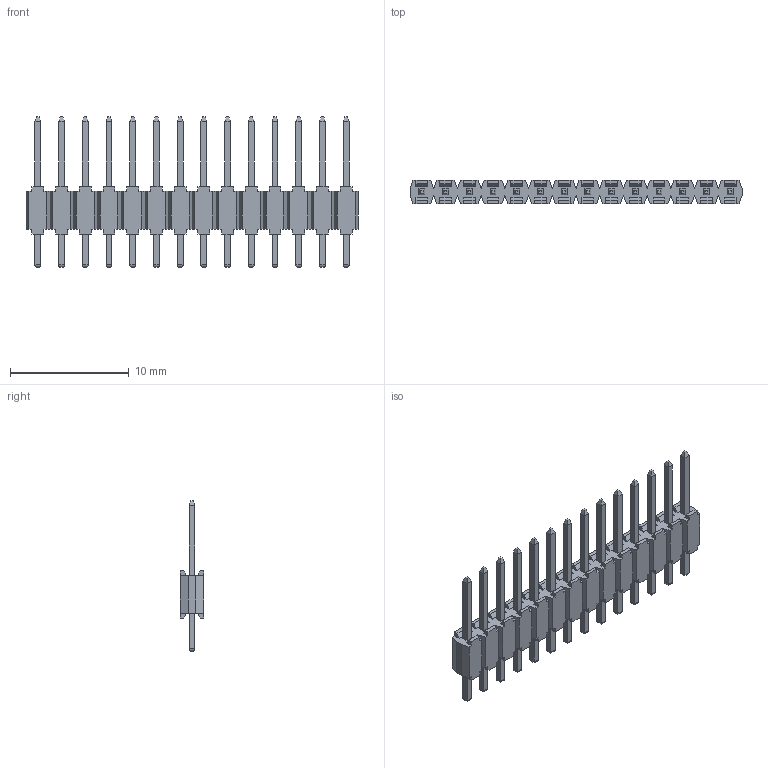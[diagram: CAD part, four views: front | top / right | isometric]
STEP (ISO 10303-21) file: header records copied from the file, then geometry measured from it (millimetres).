
FILE_DESCRIPTION(/* description */ (''),/* implementation_level */ '2;1');
FILE_NAME(/* name */ '951414-9060806-AR',/* time_stamp */ '2007-03-14T14:59:06+01:00',/* author */ (''),/* organization */ (''),/* preprocessor_version */ 'ST-DEVELOPER v9',/* originating_system */ 'UGS - NX 4.0',/* authorisation */ '');
FILE_SCHEMA (('AUTOMOTIVE_DESIGN { 1 0 10303 214 1 1 1 1 }'));
Length unit declared in the file: millimetre
Products named in the file (1): 951414-9060806-AR
Bounding box: 28 x 2 x 12.7 mm (x, y, z)
Volume: 205.4 mm3; surface area: 685 mm2
Topology: 1 solids, 1 shells, 564 faces, 1490 edges, 956 vertices
Faces by surface type: plane 508, cylinder 56
Entity records: 16998 total; most frequent: CARTESIAN_POINT 3011, ORIENTED_EDGE 2980, DIRECTION 2676, EDGE_CURVE 1490, LINE 1434, VECTOR 1434, VERTEX_POINT 956, AXIS2_PLACEMENT_3D 621
